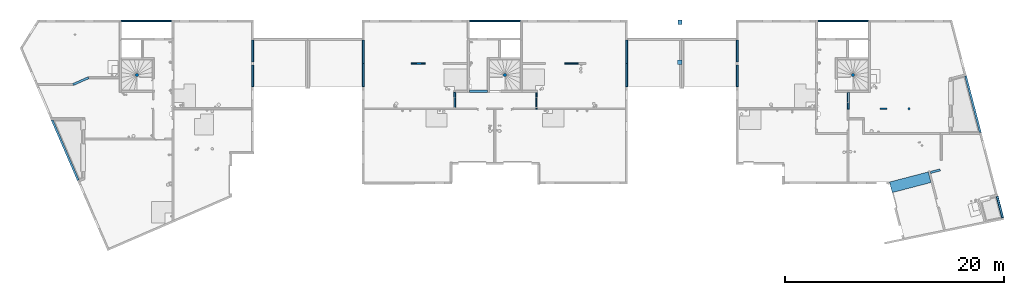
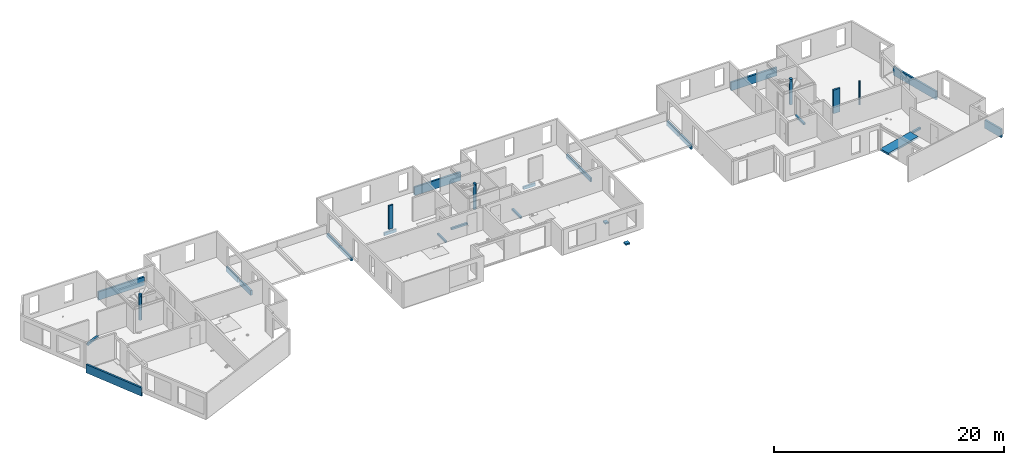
# One storey, part 1 of 24: 25 beams, 6 columns.
"""IFC2X3 building model written with IfcOpenShell, lengths in centimetres."""

from ifc_helpers import new_model, entity, si_unit, converted_unit, derived_unit, direction, frame, frame_2d, origin, origin_2d_with_axis, place, context, subcontext, project, spatial, rectangle, circle, extrude, clip, halfspace, face_set, faceted_brep, surface_model, source, transform, mapped, material, type_object, type_shapes, element, save


model = new_model("IFC2X3")

# Units and contexts
model_context = context("Model", 3, precision=0.001, world=origin(), true_north=direction((6.12303176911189e-17, 1.0)))
body_context = subcontext(model_context, "Body", "Model", "MODEL_VIEW")
ifc_project = project(units=[si_unit("LENGTHUNIT", "METRE", prefix="CENTI"), si_unit("AREAUNIT", "SQUARE_METRE"), si_unit("VOLUMEUNIT", "CUBIC_METRE"), converted_unit("PLANEANGLEUNIT", "DEGREE", entity("IfcRatioMeasure", 0.0174532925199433), si_unit("PLANEANGLEUNIT", "RADIAN"), dimensions=[0, 0, 0, 0, 0, 0, 0]), si_unit("MASSUNIT", "GRAM", prefix="KILO"), derived_unit("MASSDENSITYUNIT", [(si_unit("MASSUNIT", "GRAM", prefix="KILO"), 1), (si_unit("LENGTHUNIT", "METRE"), -3)]), si_unit("TIMEUNIT", "SECOND"), si_unit("FREQUENCYUNIT", "HERTZ"), si_unit("THERMODYNAMICTEMPERATUREUNIT", "DEGREE_CELSIUS"), derived_unit("THERMALTRANSMITTANCEUNIT", [(si_unit("MASSUNIT", "GRAM", prefix="KILO"), 1), (si_unit("THERMODYNAMICTEMPERATUREUNIT", "KELVIN"), -1), (si_unit("TIMEUNIT", "SECOND"), -3)]), derived_unit("VOLUMETRICFLOWRATEUNIT", [(si_unit("LENGTHUNIT", "METRE"), 3), (si_unit("TIMEUNIT", "SECOND"), -1)]), si_unit("ELECTRICCURRENTUNIT", "AMPERE"), si_unit("ELECTRICVOLTAGEUNIT", "VOLT"), si_unit("POWERUNIT", "WATT"), si_unit("FORCEUNIT", "NEWTON"), si_unit("ILLUMINANCEUNIT", "LUX"), si_unit("LUMINOUSFLUXUNIT", "LUMEN"), si_unit("LUMINOUSINTENSITYUNIT", "CANDELA"), derived_unit("USERDEFINED", [(si_unit("MASSUNIT", "GRAM", prefix="KILO"), -1), (si_unit("LENGTHUNIT", "METRE"), -2), (si_unit("TIMEUNIT", "SECOND"), 3), (si_unit("LUMINOUSFLUXUNIT", "LUMEN"), 1)]), derived_unit("LINEARVELOCITYUNIT", [(si_unit("LENGTHUNIT", "METRE"), 1), (si_unit("TIMEUNIT", "SECOND"), -1)]), si_unit("PRESSUREUNIT", "PASCAL"), derived_unit("USERDEFINED", [(si_unit("LENGTHUNIT", "METRE"), -2), (si_unit("MASSUNIT", "GRAM", prefix="KILO"), 1), (si_unit("TIMEUNIT", "SECOND"), -2)])], contexts=[model_context])

# Site, building, storey
site_placement = place(None, origin())
site = spatial("IfcSite", under=ifc_project, at=site_placement, Name="Default", CompositionType="ELEMENT")
building_placement = place(site_placement, origin())
building = spatial("IfcBuilding", under=site, at=building_placement, Name="CAGE 03", CompositionType="ELEMENT")
storey_placement = place(building_placement, frame((0.0, 0.0, 880.0)))
storey = spatial("IfcBuildingStorey", under=building, at=storey_placement, Name="R+3", CompositionType="ELEMENT", Elevation=880.0)

# Columns
ifc_material_1 = material(Name="Béton, C25/30")
column_type_1 = type_object("IfcColumnType", Name="18x67", PredefinedType="COLUMN", material=ifc_material_1)
shared_shape_1 = source(origin(), body_context, "Body", "SweptSolid", [
    extrude(rectangle(XDim=18.0000000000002, YDim=67.0000000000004, at=frame_2d((0.0, -1.73372427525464e-12), x_axis=(1.0, 0.0))), frame((10628.3658201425, 4483.66066607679, 1100.0), z_axis=(0.0, 0.0, 1.0), x_axis=(0.0, -1.0, 0.0)), (0.0, 0.0, 1.0), 30.0000000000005),
    extrude(rectangle(XDim=18.0000000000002, YDim=67.0000000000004, at=frame_2d((0.0, -1.73372427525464e-12), x_axis=(1.0, 0.0))), frame((10628.3658201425, 4483.66066607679, 880.0), z_axis=(0.0, 0.0, 1.0), x_axis=(0.0, -1.0, 0.0)), (0.0, 0.0, 1.0), 220.0),
])
type_shapes(column_type_1, [shared_shape_1])
column_1_placement = place(storey_placement, frame((0.0, 0.0, -880.0)))
element("IfcColumn", 1, at=column_1_placement, inside=storey, type_object=column_type_1, material=ifc_material_1, Name="BBGO-Poteau rect:18x67", ObjectType="18x67", context=body_context, shape_type="MappedRepresentation", body=[
    mapped(shared_shape_1, transform((0.0, 0.0, 0.0), scale=1.0)),
])
column_type_2 = type_object("IfcColumnType", Name="Ø20", PredefinedType="COLUMN", material=ifc_material_1)
shared_shape_2 = source(origin(), body_context, "Body", "SweptSolid", [
    extrude(circle(Radius=10.0000000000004, at=origin_2d_with_axis()), frame((10861.3658201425, 4483.66066607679, 1100.0), z_axis=(0.0, 0.0, 1.0), x_axis=(0.0, -1.0, 0.0)), (0.0, 0.0, 1.0), 30.0000000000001),
    extrude(circle(Radius=10.0000000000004, at=origin_2d_with_axis()), frame((10861.3658201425, 4483.66066607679, 880.0), z_axis=(0.0, 0.0, 1.0), x_axis=(0.0, -1.0, 0.0)), (0.0, 0.0, 1.0), 220.0),
])
type_shapes(column_type_2, [shared_shape_2])
column_2_placement = place(storey_placement, frame((0.0, 0.0, -880.0)))
element("IfcColumn", 2, at=column_2_placement, inside=storey, type_object=column_type_2, material=ifc_material_1, Name="BBGO-Poteau circ:Ø20", ObjectType="Ø20", context=body_context, shape_type="MappedRepresentation", body=[
    mapped(shared_shape_2, transform((0.0, 0.0, 0.0), scale=1.0)),
])
column_type_3 = type_object("IfcColumnType", Name="16x43", PredefinedType="COLUMN", material=ifc_material_1)
shared_shape_3 = source(origin(), body_context, "Body", "SweptSolid", [
    extrude(rectangle(XDim=15.9999999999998, YDim=42.9999999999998, at=origin_2d_with_axis()), frame((6388.86582014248, 4895.6606660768, 880.0), z_axis=(0.0, 0.0, 1.0), x_axis=(0.0, -1.0, 0.0)), (0.0, 0.0, 1.0), 250.0),
])
type_shapes(column_type_3, [shared_shape_3])
column_3_placement = place(storey_placement, frame((0.0, 0.0, -880.0)))
element("IfcColumn", 3, at=column_3_placement, inside=storey, type_object=column_type_3, material=ifc_material_1, Name="BBGO-Poteau rect:16x43", ObjectType="16x43", context=body_context, shape_type="MappedRepresentation", body=[
    mapped(shared_shape_3, transform((0.0, 0.0, 0.0), scale=1.0)),
])
ifc_material_2 = material(Name="Béton, panneaux préfa 30/37")
column_type_4 = type_object("IfcColumnType", Name="Ø30", PredefinedType="COLUMN", material=ifc_material_2)
shared_shape_4 = source(origin(), body_context, "Body", "SweptSolid", [
    extrude(circle(Radius=15.0, at=origin_2d_with_axis()), frame((3813.36582014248, 4791.66066607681, 1130.0), z_axis=(0.0, 0.0, 1.0), x_axis=(-1.0, 0.0, 0.0)), (0.0, 0.0, 1.0), 20.0),
    extrude(circle(Radius=15.0, at=origin_2d_with_axis()), frame((3813.36582014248, 4791.66066607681, 880.0)), (0.0, 0.0, 1.0), 250.0),
])
type_shapes(column_type_4, [shared_shape_4])
column_4_placement = place(storey_placement, frame((0.0, 0.0, -880.0)))
element("IfcColumn", 4, at=column_4_placement, inside=storey, type_object=column_type_4, material=ifc_material_2, Name="BBGO-Poteau circ:Ø30", ObjectType="Ø30", context=body_context, shape_type="MappedRepresentation", body=[
    mapped(shared_shape_4, transform((0.0, 0.0, 0.0), scale=1.0)),
])
column_type_5 = type_object("IfcColumnType", Name="Ø30", PredefinedType="COLUMN", material=ifc_material_2)
shared_shape_5 = source(origin(), body_context, "Body", "SweptSolid", [
    extrude(circle(Radius=15.0000000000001, at=origin_2d_with_axis()), frame((7172.36582014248, 4791.66066607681, 1130.0), z_axis=(0.0, 0.0, 1.0), x_axis=(-1.0, 0.0, 0.0)), (0.0, 0.0, 1.0), 20.0),
    extrude(circle(Radius=15.0000000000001, at=origin_2d_with_axis()), frame((7172.36582014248, 4791.66066607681, 880.0)), (0.0, 0.0, 1.0), 250.0),
])
type_shapes(column_type_5, [shared_shape_5])
column_5_placement = place(storey_placement, frame((0.0, 0.0, -880.0)))
element("IfcColumn", 5, at=column_5_placement, inside=storey, type_object=column_type_5, material=ifc_material_2, Name="BBGO-Poteau circ:Ø30", ObjectType="Ø30", context=body_context, shape_type="MappedRepresentation", body=[
    mapped(shared_shape_5, transform((0.0, 0.0, 0.0), scale=1.0)),
])
column_type_6 = type_object("IfcColumnType", Name="Ø30", PredefinedType="COLUMN", material=ifc_material_2)
shared_shape_6 = source(origin(), body_context, "Body", "SweptSolid", [
    extrude(circle(Radius=15.0, at=origin_2d_with_axis()), frame((10349.3658201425, 4791.66066607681, 1130.0), z_axis=(0.0, 0.0, 1.0), x_axis=(-1.0, 0.0, 0.0)), (0.0, 0.0, 1.0), 20.0),
    extrude(circle(Radius=15.0, at=origin_2d_with_axis()), frame((10349.3658201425, 4791.66066607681, 880.0)), (0.0, 0.0, 1.0), 250.0),
])
type_shapes(column_type_6, [shared_shape_6])
column_6_placement = place(storey_placement, frame((0.0, 0.0, -880.0)))
element("IfcColumn", 6, at=column_6_placement, inside=storey, type_object=column_type_6, material=ifc_material_2, Name="BBGO-Poteau circ:Ø30", ObjectType="Ø30", context=body_context, shape_type="MappedRepresentation", body=[
    mapped(shared_shape_6, transform((0.0, 0.0, 0.0), scale=1.0)),
])

# Beams
beam_type_1 = type_object("IfcBeamType", Name="BBGO-Poutre rect:18x40ht", PredefinedType="BEAM")
beam_1_placement = place(storey_placement, frame((5870.36582014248, 4686.6606660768, -40.0), z_axis=(0.0, 0.0, 1.0), x_axis=(0.0, 1.0, 0.0)))
element("IfcBeam", 7, at=beam_1_placement, inside=storey, type_object=beam_type_1, material=ifc_material_1, Name="BBGO-Poutre rect:18x40ht", ObjectType="BBGO-Poutre rect:18x40ht", context=body_context, shape_type="Brep", body=[
    faceted_brep([(209.0, 0.0, 40.0), (209.0, 0.0, 20.0), (201.0, 0.0, 20.0), (201.0, 0.0, 0.0), (0.0, 0.0, 0.0), (0.0, 0.0, 40.0), (201.0, -18.0, 0.0), (0.0, -18.0, 0.0), (209.0, -18.0, 20.0), (209.0, -18.0, 40.0), (0.0, -18.0, 40.0), (201.0, -18.0, 20.0)], [[[0, 1, 2, 3, 4, 5]], [[3, 6, 7, 4]], [[8, 9, 10, 7, 6, 11]], [[9, 0, 5, 10]], [[0, 9, 8, 1]], [[2, 11, 6, 3]], [[11, 2, 1, 8]], [[5, 4, 7, 10]]]),
])
beam_2_placement = place(storey_placement, frame((5870.36582014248, 4895.6606660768, -40.0), z_axis=(0.0, 0.0, 1.0), x_axis=(0.0, 1.0, 0.0)))
element("IfcBeam", 8, at=beam_2_placement, inside=storey, type_object=beam_type_1, material=ifc_material_1, Name="BBGO-Poutre rect:18x40ht", ObjectType="BBGO-Poutre rect:18x40ht", context=body_context, shape_type="Brep", body=[
    faceted_brep([(0.0, 0.0, 20.0), (0.0, 0.0, 40.0), (215.0, 0.0, 40.0), (215.0, 0.0, 0.0), (8.0, 0.0, 0.0), (8.0, 0.0, 20.0), (8.0, -18.0, 0.0), (215.0, -18.0, 0.0), (0.0, -18.0, 40.0), (0.0, -18.0, 20.0), (8.0, -18.0, 20.0), (215.0, -18.0, 40.0)], [[[0, 1, 2, 3, 4, 5]], [[6, 4, 3, 7]], [[8, 9, 10, 6, 7, 11]], [[1, 8, 11, 2]], [[8, 1, 0, 9]], [[10, 5, 4, 6]], [[5, 10, 9, 0]], [[3, 2, 11, 7]]]),
])
beam_3_placement = place(storey_placement, frame((8274.36582014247, 4686.6606660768, -40.0), z_axis=(0.0, 0.0, 1.0), x_axis=(0.0, 1.0, 0.0)))
element("IfcBeam", 9, at=beam_3_placement, inside=storey, type_object=beam_type_1, material=ifc_material_1, Name="BBGO-Poutre rect:18x40ht", ObjectType="BBGO-Poutre rect:18x40ht", context=body_context, shape_type="Brep", body=[
    faceted_brep([(209.0, 0.0, 40.0), (209.0, 0.0, 20.0), (201.0, 0.0, 20.0), (201.0, 0.0, 0.0), (0.0, 0.0, 0.0), (0.0, 0.0, 40.0), (201.0, -18.0, 0.0), (0.0, -18.0, 0.0), (209.0, -18.0, 20.0), (209.0, -18.0, 40.0), (0.0, -18.0, 40.0), (201.0, -18.0, 20.0)], [[[0, 1, 2, 3, 4, 5]], [[3, 6, 7, 4]], [[8, 9, 10, 7, 6, 11]], [[9, 0, 5, 10]], [[0, 9, 8, 1]], [[2, 11, 6, 3]], [[11, 2, 1, 8]], [[5, 4, 7, 10]]]),
])
beam_4_placement = place(storey_placement, frame((8274.36582014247, 4895.6606660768, -40.0), z_axis=(0.0, 0.0, 1.0), x_axis=(0.0, 1.0, 0.0)))
element("IfcBeam", 10, at=beam_4_placement, inside=storey, type_object=beam_type_1, material=ifc_material_1, Name="BBGO-Poutre rect:18x40ht", ObjectType="BBGO-Poutre rect:18x40ht", context=body_context, shape_type="Brep", body=[
    faceted_brep([(0.0, 0.0, 20.0), (0.0, 0.0, 40.0), (215.0, 0.0, 40.0), (215.0, 0.0, 0.0), (8.0, 0.0, 0.0), (8.0, 0.0, 20.0), (8.0, -18.0, 0.0), (215.0, -18.0, 0.0), (0.0, -18.0, 40.0), (0.0, -18.0, 20.0), (8.0, -18.0, 20.0), (215.0, -18.0, 40.0)], [[[0, 1, 2, 3, 4, 5]], [[6, 4, 3, 7]], [[8, 9, 10, 6, 7, 11]], [[1, 8, 11, 2]], [[8, 1, 0, 9]], [[10, 5, 4, 6]], [[5, 10, 9, 0]], [[3, 2, 11, 7]]]),
])
beam_type_2 = type_object("IfcBeamType", Name="BBGO-Poutre rect:18x89ht", PredefinedType="BEAM")
beam_5_placement = place(storey_placement, frame((3663.36582014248, 5284.66066607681, 0.0)))
element("IfcBeam", 11, at=beam_5_placement, inside=storey, type_object=beam_type_2, material=ifc_material_1, Name="BBGO-Poutre rect:18x89ht", ObjectType="BBGO-Poutre rect:18x89ht", context=body_context, shape_type="SweptSolid", body=[
    extrude(rectangle(XDim=89.0, YDim=17.9999999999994, at=frame_2d((5.32907051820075e-14, 1.73283609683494e-12), x_axis=(1.0, 0.0))), frame((9.0, 0.0, 0.499999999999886), z_axis=(1.0, 0.0, 0.0), x_axis=(0.0, 0.0, -1.0)), (0.0, 0.0, 1.0), 461.999999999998),
])
beam_6_placement = place(storey_placement, frame((6840.36582014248, 5284.6606660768, 0.0)))
element("IfcBeam", 12, at=beam_6_placement, inside=storey, type_object=beam_type_2, material=ifc_material_1, Name="BBGO-Poutre rect:18x89ht", ObjectType="BBGO-Poutre rect:18x89ht", context=body_context, shape_type="SweptSolid", body=[
    extrude(rectangle(XDim=89.0, YDim=17.9999999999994, at=frame_2d((5.32907051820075e-14, 1.73283609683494e-12), x_axis=(1.0, 0.0))), frame((9.0, 0.0, 0.499999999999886), z_axis=(1.0, 0.0, 0.0), x_axis=(0.0, 0.0, -1.0)), (0.0, 0.0, 1.0), 464.0),
])
beam_7_placement = place(storey_placement, frame((10019.3658201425, 5284.66066607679, 0.0)))
element("IfcBeam", 13, at=beam_7_placement, inside=storey, type_object=beam_type_2, material=ifc_material_1, Name="BBGO-Poutre rect:18x89ht", ObjectType="BBGO-Poutre rect:18x89ht", context=body_context, shape_type="SweptSolid", body=[
    extrude(rectangle(XDim=89.0, YDim=17.9999999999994, at=frame_2d((5.32907051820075e-14, 1.73283609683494e-12), x_axis=(1.0, 0.0))), frame((9.0, 0.0, 0.499999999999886), z_axis=(1.0, 0.0, 0.0), x_axis=(0.0, 0.0, -1.0)), (0.0, 0.0, 1.0), 462.000000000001),
])
beam_8_placement = place(storey_placement, frame((3281.62861640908, 3824.01596311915, 0.0), z_axis=(0.0, 0.0, 1.0), x_axis=(-0.397106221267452, 0.91777265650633, 0.0)))
element("IfcBeam", 14, at=beam_8_placement, inside=storey, type_object=beam_type_2, material=ifc_material_1, Name="BBGO-Poutre rect:18x89ht", ObjectType="BBGO-Poutre rect:18x89ht", context=body_context, shape_type="Clipping", body=[
    clip(extrude(rectangle(XDim=89.0, YDim=18.0000000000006, at=frame_2d((5.6843418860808e-14, 2.8421709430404e-13), x_axis=(1.0, 0.0))), frame((9.0, 0.0, 0.499999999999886), z_axis=(1.0, 0.0, 0.0), x_axis=(0.0, 0.0, -1.0)), (0.0, 0.0, 1.0), 602.500740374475), halfspace(frame((496.396298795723, -257.023807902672, -270.0), z_axis=(0.917772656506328, -0.397106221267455, 0.0), x_axis=(-0.397106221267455, -0.917772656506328, 0.0)), False)),
])
beam_9_placement = place(storey_placement, frame((11375.3311365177, 4792.76076680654, 0.0), z_axis=(0.0, 0.0, 1.0), x_axis=(0.252679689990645, -0.967549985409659, 0.0)))
element("IfcBeam", 15, at=beam_9_placement, inside=storey, type_object=beam_type_2, material=ifc_material_1, Name="BBGO-Poutre rect:18x89ht", ObjectType="BBGO-Poutre rect:18x89ht", context=body_context, shape_type="Clipping", body=[
    clip(extrude(rectangle(XDim=89.0, YDim=17.9999999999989, at=frame_2d((5.6843418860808e-14, 8.38440428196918e-13), x_axis=(1.0, 0.0))), frame((9.0, 0.0, 0.499999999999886), z_axis=(1.0, 0.0, 0.0), x_axis=(0.0, 0.0, -1.0)), (0.0, 0.0, 1.0), 537.095008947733), halfspace(frame((547.268838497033, 13.4947766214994, 0.0), z_axis=(0.967549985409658, -0.252679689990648, 0.0), x_axis=(-0.252679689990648, -0.967549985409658, 0.0)), False)),
])
beam_10_placement = place(storey_placement, frame((11662.375264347, 3693.62398338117, 0.0), z_axis=(0.0, 0.0, 1.0), x_axis=(0.252679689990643, -0.96754998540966, 0.0)))
element("IfcBeam", 16, at=beam_10_placement, inside=storey, type_object=beam_type_2, material=ifc_material_1, Name="BBGO-Poutre rect:18x89ht", ObjectType="BBGO-Poutre rect:18x89ht", context=body_context, shape_type="Clipping", body=[
    clip(extrude(rectangle(XDim=89.0, YDim=17.999999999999, at=frame_2d((5.6843418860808e-14, 2.62456723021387e-12), x_axis=(1.0, 0.0))), frame((9.0, 0.0, 0.499999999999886), z_axis=(1.0, 0.0, 0.0), x_axis=(0.0, 0.0, -1.0)), (0.0, 0.0, 1.0), 204.587793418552), halfspace(frame((171.771995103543, -791.479812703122, -270.0), z_axis=(0.998638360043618, -0.0521672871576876, 0.0), x_axis=(-0.0521672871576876, -0.998638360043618, 0.0)), False)),
])
beam_type_3 = type_object("IfcBeamType", Name="20x20ht", PredefinedType="BEAM", material=ifc_material_1)
shared_shape_7 = source(origin(), body_context, "Body", "SurfaceModel", [
    surface_model("IfcFaceBasedSurfaceModel", [(0.0, 18.3053501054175, 20.0), (8.05693226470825, 0.0, 20.0), (8.05693226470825, 0.0, 0.0), (0.0, 18.3053501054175, 0.0), (142.0, 80.8053501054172, 20.0), (150.056932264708, 62.5000000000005, 20.0), (150.056932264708, 62.5000000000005, 0.0), (142.0, 80.8053501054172, 0.0)], [face_set([[[0, 1, 2, 3]], [[4, 5, 6, 7]], [[3, 0, 4, 7]], [[2, 3, 7, 6]], [[1, 2, 6, 5]], [[0, 1, 5, 4]]])]),
])
type_shapes(beam_type_3, [shared_shape_7])
beam_11_placement = place(storey_placement, frame((3227.33735401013, 4695.5079910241, -20.0)))
element("IfcBeam", 17, at=beam_11_placement, inside=storey, type_object=beam_type_3, material=ifc_material_1, Name="BBGO-Poutre rect:20x20ht", ObjectType="20x20ht", context=body_context, shape_type="MappedRepresentation", body=[
    mapped(shared_shape_7, transform((0.0, 0.0, 0.0), scale=1.0)),
])
beam_type_4 = type_object("IfcBeamType", Name="BBGO-Poutre rect:18x50ht", PredefinedType="BEAM")
beam_12_placement = place(storey_placement, frame((4869.36582014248, 4677.66066607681, 0.0), z_axis=(0.0, 0.0, 1.0), x_axis=(0.0, 1.0, 0.0)))
element("IfcBeam", 18, at=beam_12_placement, inside=storey, type_object=beam_type_4, material=ifc_material_1, Name="BBGO-Poutre rect:18x50ht", ObjectType="BBGO-Poutre rect:18x50ht", context=body_context, shape_type="SweptSolid", body=[
    extrude(rectangle(XDim=50.0, YDim=17.9999999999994, at=frame_2d((-5.50670620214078e-14, 0.0), x_axis=(1.0, 0.0))), frame((9.0, 0.0, -25.0), z_axis=(1.0, 0.0, 0.0), x_axis=(0.0, 0.0, -1.0)), (0.0, 0.0, 1.0), 194.0),
])
beam_13_placement = place(storey_placement, frame((4869.36582014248, 4895.66066607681, 0.0), z_axis=(0.0, 0.0, 1.0), x_axis=(0.0, 1.0, 0.0)))
element("IfcBeam", 19, at=beam_13_placement, inside=storey, type_object=beam_type_4, material=ifc_material_1, Name="BBGO-Poutre rect:18x50ht", ObjectType="BBGO-Poutre rect:18x50ht", context=body_context, shape_type="SweptSolid", body=[
    extrude(rectangle(XDim=50.0, YDim=17.9999999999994, at=frame_2d((-5.50670620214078e-14, 0.0), x_axis=(1.0, 0.0))), frame((15.0, 0.0, -25.0), z_axis=(1.0, 0.0, 0.0), x_axis=(0.0, 0.0, -1.0)), (0.0, 0.0, 1.0), 200.0),
])
beam_14_placement = place(storey_placement, frame((9293.36582014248, 4677.66066607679, 0.0), z_axis=(0.0, 0.0, 1.0), x_axis=(0.0, 1.0, 0.0)))
element("IfcBeam", 20, at=beam_14_placement, inside=storey, type_object=beam_type_4, material=ifc_material_1, Name="BBGO-Poutre rect:18x50ht", ObjectType="BBGO-Poutre rect:18x50ht", context=body_context, shape_type="SweptSolid", body=[
    extrude(rectangle(XDim=50.0, YDim=17.9999999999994, at=frame_2d((-5.50670620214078e-14, 0.0), x_axis=(1.0, 0.0))), frame((9.0, 0.0, -25.0), z_axis=(1.0, 0.0, 0.0), x_axis=(0.0, 0.0, -1.0)), (0.0, 0.0, 1.0), 194.000000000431),
])
beam_15_placement = place(storey_placement, frame((9293.36582014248, 4895.66066607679, 0.0), z_axis=(0.0, 0.0, 1.0), x_axis=(0.0, 1.0, 0.0)))
element("IfcBeam", 21, at=beam_15_placement, inside=storey, type_object=beam_type_4, material=ifc_material_1, Name="BBGO-Poutre rect:18x50ht", ObjectType="BBGO-Poutre rect:18x50ht", context=body_context, shape_type="SweptSolid", body=[
    extrude(rectangle(XDim=50.0, YDim=17.9999999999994, at=frame_2d((-5.50670620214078e-14, 0.0), x_axis=(1.0, 0.0))), frame((15.0, 0.0, -25.0), z_axis=(1.0, 0.0, 0.0), x_axis=(0.0, 0.0, -1.0)), (0.0, 0.0, 1.0), 200.0),
])
beam_type_5 = type_object("IfcBeamType", Name="BBGO-Poutre rect:16x50ht", PredefinedType="BEAM")
beam_16_placement = place(storey_placement, frame((6320.36582014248, 4895.6606660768, 0.0)))
element("IfcBeam", 22, at=beam_16_placement, inside=storey, type_object=beam_type_5, material=ifc_material_1, Name="BBGO-Poutre rect:16x50ht", ObjectType="BBGO-Poutre rect:16x50ht", context=body_context, shape_type="SweptSolid", body=[
    extrude(rectangle(XDim=30.0000000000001, YDim=15.9999999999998, at=origin_2d_with_axis()), frame((0.0, 0.0, -35.0), z_axis=(1.0, 0.0, 0.0), x_axis=(0.0, 0.0, -1.0)), (0.0, 0.0, 1.0), 124.0),
])
beam_17_placement = place(storey_placement, frame((7718.36582014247, 4895.6606660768, 0.0)))
element("IfcBeam", 23, at=beam_17_placement, inside=storey, type_object=beam_type_5, material=ifc_material_1, Name="BBGO-Poutre rect:16x50ht", ObjectType="BBGO-Poutre rect:16x50ht", context=body_context, shape_type="SweptSolid", body=[
    extrude(rectangle(XDim=30.0000000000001, YDim=15.9999999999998, at=origin_2d_with_axis()), frame((0.0, 0.0, -35.0), z_axis=(1.0, 0.0, 0.0), x_axis=(0.0, 0.0, -1.0)), (0.0, 0.0, 1.0), 122.000000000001),
])
beam_type_6 = type_object("IfcBeamType", Name="18x20ht", PredefinedType="BEAM", material=ifc_material_1)
shared_shape_8 = source(origin(), body_context, "Body", "Brep", [
    faceted_brep([(18.0, 140.0, 20.0), (18.0, 140.0, 0.0), (0.0, 140.0, 0.0), (0.0, 140.0, 20.0), (18.0, 0.0, 20.0), (0.0, 0.0, 20.0), (0.0, 0.0, 0.0), (18.0, 0.0, 0.0)], [[[0, 1, 2, 3]], [[4, 5, 6, 7]], [[1, 0, 4, 7]], [[2, 1, 7, 6]], [[3, 2, 6, 5]], [[0, 3, 5, 4]]]),
])
type_shapes(beam_type_6, [shared_shape_8])
beam_18_placement = place(storey_placement, frame((6704.36582014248, 4492.6606660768, -20.0)))
element("IfcBeam", 24, at=beam_18_placement, inside=storey, type_object=beam_type_6, material=ifc_material_1, Name="BBGO-Poutre rect:18x20ht", ObjectType="18x20ht", context=body_context, shape_type="MappedRepresentation", body=[
    mapped(shared_shape_8, transform((0.0, 0.0, 0.0), scale=1.0)),
])
beam_type_7 = type_object("IfcBeamType", Name="18x20ht", PredefinedType="BEAM", material=ifc_material_1)
shared_shape_9 = source(origin(), body_context, "Body", "Brep", [
    faceted_brep([(18.0, 151.500000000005, 20.0), (18.0, 151.500000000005, 0.0), (0.0, 151.500000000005, 0.0), (0.0, 151.500000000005, 20.0), (18.0, 0.0, 20.0), (0.0, 0.0, 20.0), (0.0, 0.0, 0.0), (18.0, 0.0, 0.0)], [[[0, 1, 2, 3]], [[4, 5, 6, 7]], [[1, 0, 4, 7]], [[2, 1, 7, 6]], [[3, 2, 6, 5]], [[0, 3, 5, 4]]]),
])
type_shapes(beam_type_7, [shared_shape_9])
beam_19_placement = place(storey_placement, frame((7452.36582014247, 4481.1606660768, -20.0)))
element("IfcBeam", 25, at=beam_19_placement, inside=storey, type_object=beam_type_7, material=ifc_material_1, Name="BBGO-Poutre rect:18x20ht", ObjectType="18x20ht", context=body_context, shape_type="MappedRepresentation", body=[
    mapped(shared_shape_9, transform((0.0, 0.0, 0.0), scale=1.0)),
])
beam_type_8 = type_object("IfcBeamType", Name="18x20ht", PredefinedType="BEAM", material=ifc_material_1)
shared_shape_10 = source(origin(), body_context, "Body", "Brep", [
    faceted_brep([(18.0, 151.500000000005, 20.0), (18.0, 151.500000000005, 0.0), (0.0, 151.500000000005, 0.0), (0.0, 151.500000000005, 20.0), (18.0, 0.0, 20.0), (0.0, 0.0, 20.0), (0.0, 0.0, 0.0), (18.0, 0.0, 0.0)], [[[0, 1, 2, 3]], [[4, 5, 6, 7]], [[1, 0, 4, 7]], [[2, 1, 7, 6]], [[3, 2, 6, 5]], [[0, 3, 5, 4]]]),
])
type_shapes(beam_type_8, [shared_shape_10])
beam_20_placement = place(storey_placement, frame((10297.3658201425, 4481.16066607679, -20.0)))
element("IfcBeam", 26, at=beam_20_placement, inside=storey, type_object=beam_type_8, material=ifc_material_1, Name="BBGO-Poutre rect:18x20ht", ObjectType="18x20ht", context=body_context, shape_type="MappedRepresentation", body=[
    mapped(shared_shape_10, transform((0.0, 0.0, 0.0), scale=1.0)),
])
beam_type_9 = type_object("IfcBeamType", Name="100x20ht", PredefinedType="BEAM", material=ifc_material_1)
shared_shape_11 = source(origin(), body_context, "Body", "SurfaceModel", [
    surface_model("IfcFaceBasedSurfaceModel", [(379.391263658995, 92.4807665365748, 20.0), (379.391263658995, 92.4807665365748, 0.0), (354.123294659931, 189.235765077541, 0.0), (354.123294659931, 189.235765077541, 20.0), (25.2679689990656, 0.0, 20.0), (25.2679689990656, 0.0, 0.0), (0.0, 96.7549985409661, 0.0), (0.0, 96.7549985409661, 20.0)], [face_set([[[0, 1, 2, 3]], [[4, 5, 6, 7]], [[1, 0, 4, 5]], [[2, 1, 5, 6]], [[3, 2, 6, 7]], [[0, 3, 7, 4]]])]),
])
type_shapes(beam_type_9, [shared_shape_11])
beam_21_placement = place(storey_placement, frame((10683.5281497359, 3717.90566753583, -20.0)))
element("IfcBeam", 27, at=beam_21_placement, inside=storey, type_object=beam_type_9, material=ifc_material_1, Name="BBGO-Poutre rect:100x20ht", ObjectType="100x20ht", context=body_context, shape_type="MappedRepresentation", body=[
    mapped(shared_shape_11, transform((0.0, 0.0, 0.0), scale=1.0)),
])
beam_type_10 = type_object("IfcBeamType", Name="20x20ht", PredefinedType="BEAM", material=ifc_material_1)
shared_shape_12 = source(origin(), body_context, "Body", "SurfaceModel", [
    surface_model("IfcFaceBasedSurfaceModel", [(94.3252729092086, 23.3136691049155, 20.0), (94.3252729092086, 23.3136691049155, 0.0), (89.2716791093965, 42.6646688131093, 0.0), (89.2716791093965, 42.6646688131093, 20.0), (5.05359379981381, 0.0, 20.0), (5.05359379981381, 0.0, 0.0), (0.0, 19.3509997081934, 0.0), (0.0, 19.3509997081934, 20.0)], [face_set([[[0, 1, 2, 3]], [[4, 5, 6, 7]], [[1, 0, 4, 5]], [[2, 1, 5, 6]], [[3, 2, 6, 7]], [[0, 3, 7, 4]]])]),
])
type_shapes(beam_type_10, [shared_shape_12])
beam_22_placement = place(storey_placement, frame((11055.0673441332, 3892.33866732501, -20.0)))
element("IfcBeam", 28, at=beam_22_placement, inside=storey, type_object=beam_type_10, material=ifc_material_1, Name="BBGO-Poutre rect:20x20ht", ObjectType="20x20ht", context=body_context, shape_type="MappedRepresentation", body=[
    mapped(shared_shape_12, transform((0.0, 0.0, 0.0), scale=1.0)),
])
beam_type_11 = type_object("IfcBeamType", Name="20x20ht", PredefinedType="BEAM", material=ifc_material_1)
shared_shape_13 = source(origin(), body_context, "Body", "Brep", [
    faceted_brep([(164.0, 0.0, 20.0), (164.0, 0.0, 0.0), (164.0, 20.0, 0.0), (164.0, 20.0, 20.0), (0.0, 0.0, 20.0), (0.0, 20.0, 20.0), (0.0, 20.0, 0.0), (0.0, 0.0, 0.0)], [[[0, 1, 2, 3]], [[4, 5, 6, 7]], [[1, 0, 4, 7]], [[2, 1, 7, 6]], [[3, 2, 6, 5]], [[0, 3, 5, 4]]]),
])
type_shapes(beam_type_11, [shared_shape_13])
beam_23_placement = place(storey_placement, frame((6849.36582014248, 4632.6606660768, -20.0)))
element("IfcBeam", 29, at=beam_23_placement, inside=storey, type_object=beam_type_11, material=ifc_material_1, Name="BBGO-Poutre rect:20x20ht", ObjectType="20x20ht", context=body_context, shape_type="MappedRepresentation", body=[
    mapped(shared_shape_13, transform((0.0, 0.0, 0.0), scale=1.0)),
])
beam_type_12 = type_object("IfcBeamType", Name="BBGO-Poutre rect:40x16ht", PredefinedType="BEAM")
beam_24_placement = place(storey_placement, frame((8753.36582014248, 5293.66066607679, -986.0)))
element("IfcBeam", 30, at=beam_24_placement, inside=storey, type_object=beam_type_12, material=ifc_material_1, Name="BBGO-Poutre rect:40x16ht", ObjectType="BBGO-Poutre rect:40x16ht", context=body_context, shape_type="SweptSolid", body=[
    extrude(rectangle(XDim=16.0, YDim=39.9999999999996, at=frame_2d((0.0, 4.33431068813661e-13), x_axis=(1.0, 0.0))), frame((0.0, -20.0, -8.0), z_axis=(1.0, 0.0, 0.0), x_axis=(0.0, 0.0, -1.0)), (0.0, 0.0, 1.0), 34.0000000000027),
])
beam_25_placement = place(storey_placement, frame((8748.36582014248, 4926.66066607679, -986.0)))
element("IfcBeam", 31, at=beam_25_placement, inside=storey, type_object=beam_type_12, material=ifc_material_1, Name="BBGO-Poutre rect:40x16ht", ObjectType="BBGO-Poutre rect:40x16ht", context=body_context, shape_type="SweptSolid", body=[
    extrude(rectangle(XDim=16.0, YDim=39.9999999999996, at=frame_2d((0.0, 4.33431068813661e-13), x_axis=(1.0, 0.0))), frame((0.0, -20.0, -8.0), z_axis=(1.0, 0.0, 0.0), x_axis=(0.0, 0.0, -1.0)), (0.0, 0.0, 1.0), 39.0000000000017),
])

save(model, "model.ifc")
